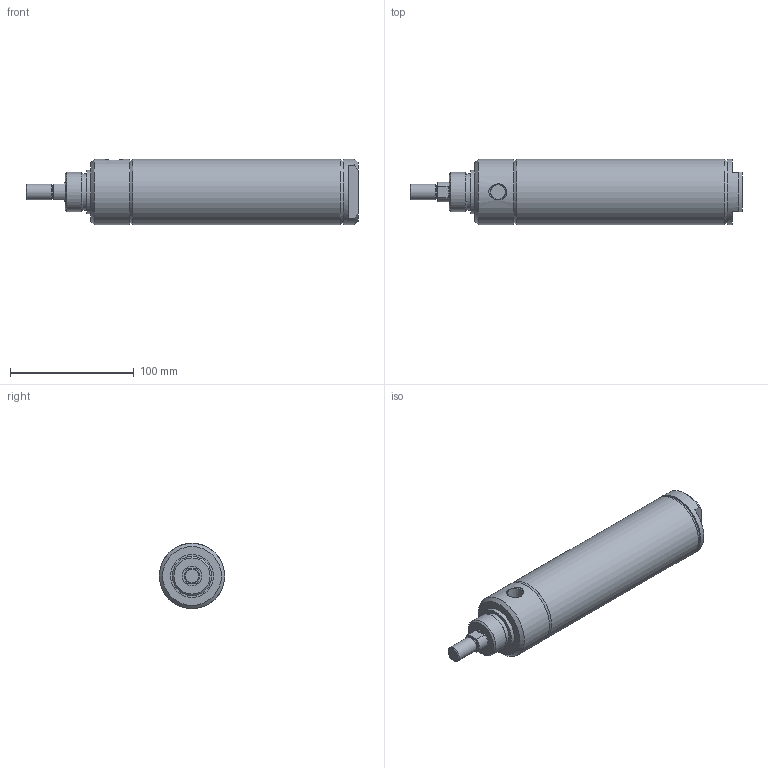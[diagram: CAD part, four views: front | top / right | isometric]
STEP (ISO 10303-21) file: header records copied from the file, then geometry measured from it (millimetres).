
FILE_DESCRIPTION( ( 'STEP AP214' ), '1' );
FILE_NAME( 'p:/temp/worker_476/temp/exporttempdir_84384_226_2XPvi/format_0/2000D01-05A-03.stp', '2020-05-07T19:07:17', ( 'License CC BY-ND 4.0' ), ( 'CADENAS' ), ' ', 'PARTsolutions', ' ' );
FILE_SCHEMA( ( 'AUTOMOTIVE_DESIGN { 1 0 10303 214 1 1 1 1 }' ) );
Length unit declared in the file: inch
Products named in the file (3): 2000D01-05A-03; _2000D01-05A-0300A00A0b; _2000D01-05A-0300A00A0r
Assembly tree (2 placements, depth 2):
  2000D01-05A-03
    _2000D01-05A-0300A00A0b
    _2000D01-05A-0300A00A0r
Bounding box: 268.3 x 52.78 x 52.78 mm (x, y, z)
Volume: 247884.4 mm3; surface area: 97319.8 mm2
Topology: 2 solids, 2 shells, 48 faces, 92 edges, 58 vertices
Faces by surface type: plane 22, cone 13, cylinder 13
Full cylindrical faces by diameter (mm): 11.189 x1, 12.7 x1, 15.875 x3, 29.23 x1, 31.75 x1, 34.925 x1, 50.8 x2, 52.578 x1, 52.781 x2
Entity records: 1605 total; most frequent: CARTESIAN_POINT 271, DIRECTION 206, ORIENTED_EDGE 130, AXIS2_PLACEMENT_3D 95, EDGE_LOOP 84, EDGE_CURVE 65, FACE_OUTER_BOUND 61, VERTEX_POINT 55
